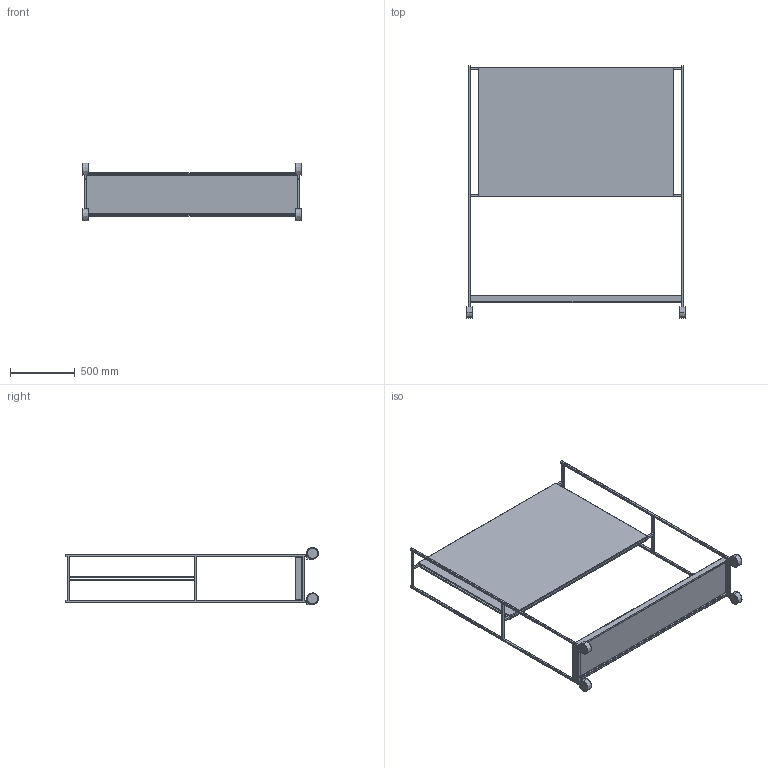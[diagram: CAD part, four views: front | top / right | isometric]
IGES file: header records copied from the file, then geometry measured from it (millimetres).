
Start section: SolidWorks IGES file using analytic representation for surfaces
Global section: file name: C:\Users\hcaixa\Documents\Gabinete Tecnico\72_produtos cliente\Timsteel\Mesas\Mesas Escritorio Operativas\Sistema Level Timsteel\AREIA-STUDIO FURNITURE CONCEPT\IGS\SUPORT QUADROS.IGS; native system: SolidWorks 2014; preprocessor: SolidWorks 2014; author: hcaixa; date: 190703.121308; units: millimetre
Bounding box: 1690.14 x 1948 x 441 mm (x, y, z)
Surface area: 9050117.6 mm2 (no closed solid volume)
Topology: 0 solids, 0 shells, 416 faces, 6048 edges, 6048 vertices
Faces by surface type: revolution 210, bspline 206
